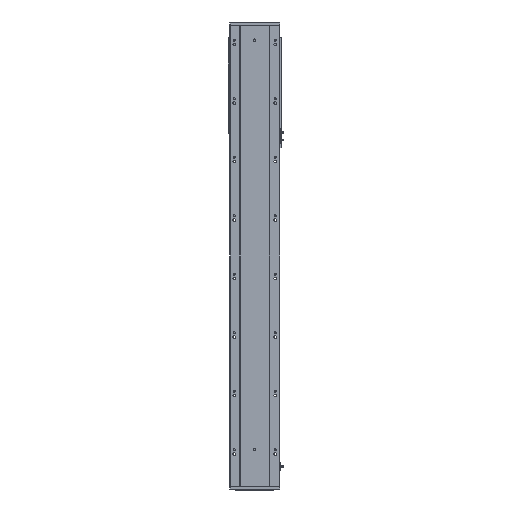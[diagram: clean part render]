
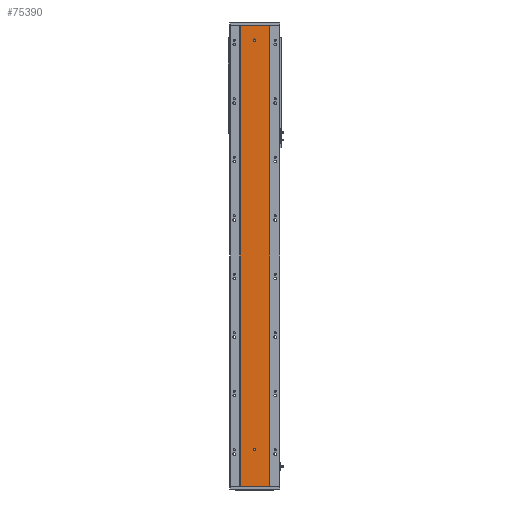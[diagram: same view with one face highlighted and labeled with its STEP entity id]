
A CAD part, front view. The second image highlights one B-rep face of the part: STEP entity #75390.
In plain terms, the highlighted planar face has unit normal (0, -1, 0).
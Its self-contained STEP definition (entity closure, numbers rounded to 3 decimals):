
#1688 = DIRECTION ( 'NONE',  ( 0., 1., 0. ) ) ;
#1705 = DIRECTION ( 'NONE',  ( 0., 0., 1. ) ) ;
#1727 = PLANE ( 'NONE',  #79000 ) ;
#1728 = CARTESIAN_POINT ( 'NONE',  ( 0., 79.476, 1576. ) ) ;
#4656 = LINE ( 'NONE', #60160, #4684 ) ;
#4684 = VECTOR ( 'NONE', #60227, 1000. ) ;
#4687 = CIRCLE ( 'NONE', #26650, 4. ) ;
#5883 = DIRECTION ( 'NONE',  ( 0., -1., 0. ) ) ;
#5889 = DIRECTION ( 'NONE',  ( 0., 0., -1. ) ) ;
#5901 = CARTESIAN_POINT ( 'NONE',  ( 136.47, 79.476, 1526. ) ) ;
#10402 = B_SPLINE_CURVE_WITH_KNOTS ( 'NONE', 3,
 ( #60066, #60067, #60050, #60016 ),
 .UNSPECIFIED., .F., .F.,
 ( 4, 4 ),
 ( 0., 1. ),
 .UNSPECIFIED. ) ;
#10406 = B_SPLINE_CURVE_WITH_KNOTS ( 'NONE', 3,
 ( #60070, #60060, #60001, #60034 ),
 .UNSPECIFIED., .F., .F.,
 ( 4, 4 ),
 ( 0., 1. ),
 .UNSPECIFIED. ) ;
#15083 = ORIENTED_EDGE ( 'NONE', *, *, #47933, .F. ) ;
#15119 = ORIENTED_EDGE ( 'NONE', *, *, #47905, .F. ) ;
#15137 = ORIENTED_EDGE ( 'NONE', *, *, #19410, .F. ) ;
#15150 = ORIENTED_EDGE ( 'NONE', *, *, #19365, .F. ) ;
#15152 = ORIENTED_EDGE ( 'NONE', *, *, #19340, .T. ) ;
#15156 = ORIENTED_EDGE ( 'NONE', *, *, #19335, .F. ) ;
#15159 = ORIENTED_EDGE ( 'NONE', *, *, #19360, .T. ) ;
#15170 = ORIENTED_EDGE ( 'NONE', *, *, #19386, .F. ) ;
#15917 = VERTEX_POINT ( 'NONE', #72106 ) ;
#19335 = EDGE_CURVE ( 'NONE', #36571, #36556, #10406, .T. ) ;
#19340 = EDGE_CURVE ( 'NONE', #36533, #36535, #10402, .T. ) ;
#19360 = EDGE_CURVE ( 'NONE', #36535, #36556, #41660, .T. ) ;
#19365 = EDGE_CURVE ( 'NONE', #15917, #20371, #41997, .T. ) ;
#19386 = EDGE_CURVE ( 'NONE', #36533, #36571, #4656, .T. ) ;
#19410 = EDGE_CURVE ( 'NONE', #20390, #20471, #4687, .T. ) ;
#20371 = VERTEX_POINT ( 'NONE', #34142 ) ;
#20390 = VERTEX_POINT ( 'NONE', #34456 ) ;
#20471 = VERTEX_POINT ( 'NONE', #34721 ) ;
#26610 = AXIS2_PLACEMENT_3D ( 'NONE', #60134, #60114, #60085 ) ;
#26650 = AXIS2_PLACEMENT_3D ( 'NONE', #5901, #5883, #5889 ) ;
#34142 = CARTESIAN_POINT ( 'NONE',  ( 136.47, 79.476, 130. ) ) ;
#34456 = CARTESIAN_POINT ( 'NONE',  ( 136.47, 79.476, 1522. ) ) ;
#34721 = CARTESIAN_POINT ( 'NONE',  ( 136.47, 79.476, 1530. ) ) ;
#36533 = VERTEX_POINT ( 'NONE', #67097 ) ;
#36535 = VERTEX_POINT ( 'NONE', #67128 ) ;
#36556 = VERTEX_POINT ( 'NONE', #67160 ) ;
#36571 = VERTEX_POINT ( 'NONE', #67157 ) ;
#41235 = EDGE_LOOP ( 'NONE', ( #15150, #15119 ) ) ;
#41249 = EDGE_LOOP ( 'NONE', ( #15137, #15083 ) ) ;
#41290 = EDGE_LOOP ( 'NONE', ( #15159, #15156, #15170, #15152 ) ) ;
#41660 = LINE ( 'NONE', #60144, #41666 ) ;
#41666 = VECTOR ( 'NONE', #60090, 1000. ) ;
#41997 = CIRCLE ( 'NONE', #26610, 4. ) ;
#47905 = EDGE_CURVE ( 'NONE', #20371, #15917, #53598, .T. ) ;
#47933 = EDGE_CURVE ( 'NONE', #20471, #20390, #53665, .T. ) ;
#53598 = CIRCLE ( 'NONE', #78350, 4. ) ;
#53665 = CIRCLE ( 'NONE', #78354, 4. ) ;
#54508 = CARTESIAN_POINT ( 'NONE',  ( 136.47, 79.476, 126. ) ) ;
#54509 = DIRECTION ( 'NONE',  ( 0., -1., 0. ) ) ;
#54524 = DIRECTION ( 'NONE',  ( 0., 0., -1. ) ) ;
#54603 = CARTESIAN_POINT ( 'NONE',  ( 136.47, 79.476, 1526. ) ) ;
#54611 = DIRECTION ( 'NONE',  ( 0., 0., -1. ) ) ;
#54621 = DIRECTION ( 'NONE',  ( 0., -1., 0. ) ) ;
#60001 = CARTESIAN_POINT ( 'NONE',  ( 185.97, 79.476, 525.333 ) ) ;
#60016 = CARTESIAN_POINT ( 'NONE',  ( 86.97, 79.476, 0. ) ) ;
#60034 = CARTESIAN_POINT ( 'NONE',  ( 185.97, 79.476, 0. ) ) ;
#60050 = CARTESIAN_POINT ( 'NONE',  ( 86.97, 79.476, 525.333 ) ) ;
#60060 = CARTESIAN_POINT ( 'NONE',  ( 185.97, 79.476, 1050.667 ) ) ;
#60066 = CARTESIAN_POINT ( 'NONE',  ( 86.97, 79.476, 1576. ) ) ;
#60067 = CARTESIAN_POINT ( 'NONE',  ( 86.97, 79.476, 1050.667 ) ) ;
#60070 = CARTESIAN_POINT ( 'NONE',  ( 185.97, 79.476, 1576. ) ) ;
#60085 = DIRECTION ( 'NONE',  ( 0., 0., -1. ) ) ;
#60090 = DIRECTION ( 'NONE',  ( 1., 0., 0. ) ) ;
#60114 = DIRECTION ( 'NONE',  ( 0., -1., 0. ) ) ;
#60134 = CARTESIAN_POINT ( 'NONE',  ( 136.47, 79.476, 126. ) ) ;
#60144 = CARTESIAN_POINT ( 'NONE',  ( 0., 79.476, 0. ) ) ;
#60160 = CARTESIAN_POINT ( 'NONE',  ( 0., 79.476, 1576. ) ) ;
#60227 = DIRECTION ( 'NONE',  ( 1., 0., 0. ) ) ;
#67097 = CARTESIAN_POINT ( 'NONE',  ( 86.97, 79.476, 1576. ) ) ;
#67128 = CARTESIAN_POINT ( 'NONE',  ( 86.97, 79.476, 0. ) ) ;
#67157 = CARTESIAN_POINT ( 'NONE',  ( 185.97, 79.476, 1576. ) ) ;
#67160 = CARTESIAN_POINT ( 'NONE',  ( 185.97, 79.476, 0. ) ) ;
#72106 = CARTESIAN_POINT ( 'NONE',  ( 136.47, 79.476, 122. ) ) ;
#75390 = ADVANCED_FACE ( 'NONE', ( #83174, #83183, #83186 ), #1727, .F. ) ;
#78350 = AXIS2_PLACEMENT_3D ( 'NONE', #54508, #54509, #54524 ) ;
#78354 = AXIS2_PLACEMENT_3D ( 'NONE', #54603, #54621, #54611 ) ;
#79000 = AXIS2_PLACEMENT_3D ( 'NONE', #1728, #1688, #1705 ) ;
#83174 = FACE_BOUND ( 'NONE', #41249, .T. ) ;
#83183 = FACE_BOUND ( 'NONE', #41235, .T. ) ;
#83186 = FACE_OUTER_BOUND ( 'NONE', #41290, .T. ) ;
